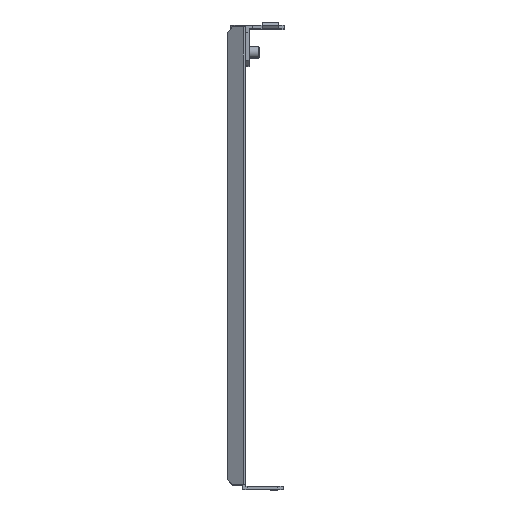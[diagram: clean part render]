
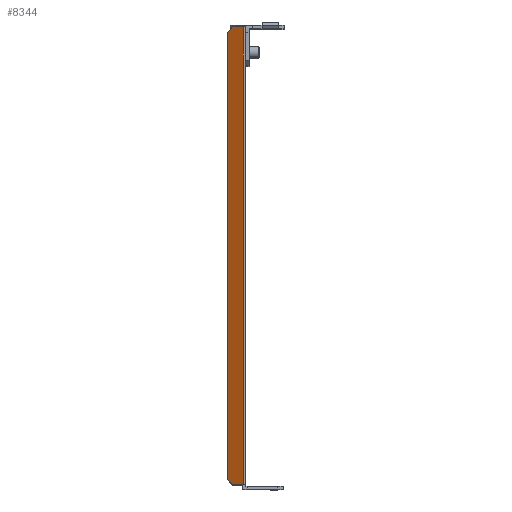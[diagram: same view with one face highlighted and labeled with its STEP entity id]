
A CAD part, top view. The second image highlights one B-rep face of the part: STEP entity #8344.
In plain terms, the highlighted planar face has unit normal (-0.5, 0, 0.866).
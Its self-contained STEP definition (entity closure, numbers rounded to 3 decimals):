
#106 = AXIS2_PLACEMENT_3D ( 'NONE', #3265, #4896, #6814 ) ;
#242 = ORIENTED_EDGE ( 'NONE', *, *, #10460, .T. ) ;
#251 = LINE ( 'NONE', #8447, #8972 ) ;
#356 = CARTESIAN_POINT ( 'NONE',  ( -8.428, 0., 145.38 ) ) ;
#434 = LINE ( 'NONE', #2349, #1954 ) ;
#582 = VERTEX_POINT ( 'NONE', #6327 ) ;
#851 = CARTESIAN_POINT ( 'NONE',  ( -2.768, 0., 148.648 ) ) ;
#1069 = VERTEX_POINT ( 'NONE', #851 ) ;
#1285 = EDGE_CURVE ( 'NONE', #10800, #7212, #10246, .T. ) ;
#1511 = FACE_OUTER_BOUND ( 'NONE', #10262, .T. ) ;
#1954 = VECTOR ( 'NONE', #6705, 1000. ) ;
#2349 = CARTESIAN_POINT ( 'NONE',  ( -64.308, 0., 113.118 ) ) ;
#2399 = LINE ( 'NONE', #5136, #4741 ) ;
#2748 = VECTOR ( 'NONE', #3227, 1000. ) ;
#3035 = ORIENTED_EDGE ( 'NONE', *, *, #8086, .T. ) ;
#3153 = DIRECTION ( 'NONE',  ( 0.866, 0., 0.5 ) ) ;
#3227 = DIRECTION ( 'NONE',  ( -0.866, 0., -0.5 ) ) ;
#3265 = CARTESIAN_POINT ( 'NONE',  ( -64.308, 0., 113.118 ) ) ;
#3558 = CARTESIAN_POINT ( 'NONE',  ( -2.768, 248., 148.648 ) ) ;
#3642 = VECTOR ( 'NONE', #10231, 1000. ) ;
#4034 = CARTESIAN_POINT ( 'NONE',  ( -11.026, 245., 143.88 ) ) ;
#4105 = ORIENTED_EDGE ( 'NONE', *, *, #8815, .T. ) ;
#4139 = DIRECTION ( 'NONE',  ( 0., 1., 0. ) ) ;
#4548 = VECTOR ( 'NONE', #7318, 1000. ) ;
#4580 = VERTEX_POINT ( 'NONE', #3558 ) ;
#4741 = VECTOR ( 'NONE', #4139, 1000. ) ;
#4896 = DIRECTION ( 'NONE',  ( 0.5, 0., -0.866 ) ) ;
#5136 = CARTESIAN_POINT ( 'NONE',  ( -2.768, 0., 148.648 ) ) ;
#5560 = EDGE_CURVE ( 'NONE', #10669, #1069, #251, .T. ) ;
#5763 = ORIENTED_EDGE ( 'NONE', *, *, #6248, .F. ) ;
#5817 = PLANE ( 'NONE',  #106 ) ;
#5925 = VERTEX_POINT ( 'NONE', #356 ) ;
#5968 = CARTESIAN_POINT ( 'NONE',  ( -8.428, 0., 145.38 ) ) ;
#6248 = EDGE_CURVE ( 'NONE', #10800, #4580, #9054, .T. ) ;
#6327 = CARTESIAN_POINT ( 'NONE',  ( -11.026, 3., 143.88 ) ) ;
#6440 = CARTESIAN_POINT ( 'NONE',  ( -64.308, 248., 113.118 ) ) ;
#6500 = ORIENTED_EDGE ( 'NONE', *, *, #1285, .T. ) ;
#6705 = DIRECTION ( 'NONE',  ( 0.866, 0., 0.5 ) ) ;
#6814 = DIRECTION ( 'NONE',  ( 0., -1., 0. ) ) ;
#6890 = EDGE_CURVE ( 'NONE', #5925, #10669, #434, .T. ) ;
#7212 = VERTEX_POINT ( 'NONE', #10506 ) ;
#7318 = DIRECTION ( 'NONE',  ( 0.866, 0., 0.5 ) ) ;
#7329 = ORIENTED_EDGE ( 'NONE', *, *, #9326, .T. ) ;
#7778 = CARTESIAN_POINT ( 'NONE',  ( -64.308, 248., 113.118 ) ) ;
#7812 = CARTESIAN_POINT ( 'NONE',  ( -5.25, 0., 147.215 ) ) ;
#7933 = CARTESIAN_POINT ( 'NONE',  ( -11.026, 0., 143.88 ) ) ;
#8086 = EDGE_CURVE ( 'NONE', #10483, #582, #8911, .T. ) ;
#8344 = ADVANCED_FACE ( 'NONE', ( #1511 ), #5817, .F. ) ;
#8414 = VECTOR ( 'NONE', #11338, 1000. ) ;
#8447 = CARTESIAN_POINT ( 'NONE',  ( -5.25, 0., 147.215 ) ) ;
#8815 = EDGE_CURVE ( 'NONE', #582, #5925, #11353, .T. ) ;
#8911 = LINE ( 'NONE', #7933, #8414 ) ;
#8972 = VECTOR ( 'NONE', #3153, 1000. ) ;
#9054 = LINE ( 'NONE', #6440, #4548 ) ;
#9083 = ORIENTED_EDGE ( 'NONE', *, *, #5560, .T. ) ;
#9326 = EDGE_CURVE ( 'NONE', #1069, #4580, #2399, .T. ) ;
#9362 = CARTESIAN_POINT ( 'NONE',  ( -11.026, 245., 143.88 ) ) ;
#9503 = DIRECTION ( 'NONE',  ( 0.612, -0.707, 0.354 ) ) ;
#9746 = VECTOR ( 'NONE', #9503, 1000. ) ;
#10231 = DIRECTION ( 'NONE',  ( -0.612, -0.707, -0.354 ) ) ;
#10243 = ORIENTED_EDGE ( 'NONE', *, *, #6890, .T. ) ;
#10246 = LINE ( 'NONE', #7778, #2748 ) ;
#10262 = EDGE_LOOP ( 'NONE', ( #9083, #7329, #5763, #6500, #242, #3035, #4105, #10243 ) ) ;
#10460 = EDGE_CURVE ( 'NONE', #7212, #10483, #11114, .T. ) ;
#10483 = VERTEX_POINT ( 'NONE', #9362 ) ;
#10506 = CARTESIAN_POINT ( 'NONE',  ( -8.428, 248., 145.38 ) ) ;
#10669 = VERTEX_POINT ( 'NONE', #7812 ) ;
#10699 = CARTESIAN_POINT ( 'NONE',  ( -5.25, 248., 147.215 ) ) ;
#10800 = VERTEX_POINT ( 'NONE', #10699 ) ;
#11114 = LINE ( 'NONE', #4034, #3642 ) ;
#11338 = DIRECTION ( 'NONE',  ( 0., -1., 0. ) ) ;
#11353 = LINE ( 'NONE', #5968, #9746 ) ;
